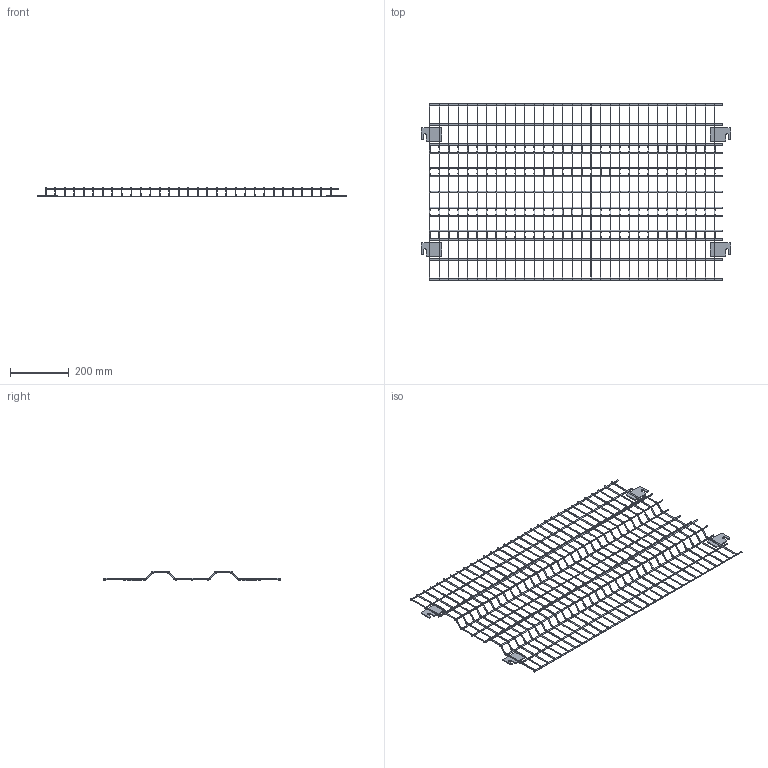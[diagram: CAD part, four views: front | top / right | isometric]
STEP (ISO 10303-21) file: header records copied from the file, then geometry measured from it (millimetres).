
FILE_DESCRIPTION (( 'STEP AP203' ), '1' );
FILE_NAME ('1000 x 600.STEP', '2023-09-15T16:45:39', ( '' ), ( '' ), 'SwSTEP 2.0', 'SolidWorks 2023', '' );
FILE_SCHEMA (( 'CONFIG_CONTROL_DESIGN' ));
Length unit declared in the file: millimetre
Products named in the file (1): 1000 x 600
Bounding box: 1056 x 600 x 31.99 mm (x, y, z)
Volume: 453769.4 mm3; surface area: 441332.1 mm2
Topology: 48 solids, 48 shells, 1294 faces, 2540 edges, 1342 vertices
Faces by surface type: cylinder 674, torus 496, plane 124
Entity records: 32777 total; most frequent: DIRECTION 6912, CARTESIAN_POINT 5177, ORIENTED_EDGE 5080, AXIS2_PLACEMENT_3D 3077, EDGE_CURVE 2540, CIRCLE 1782, VERTEX_POINT 1342, EDGE_LOOP 1294
